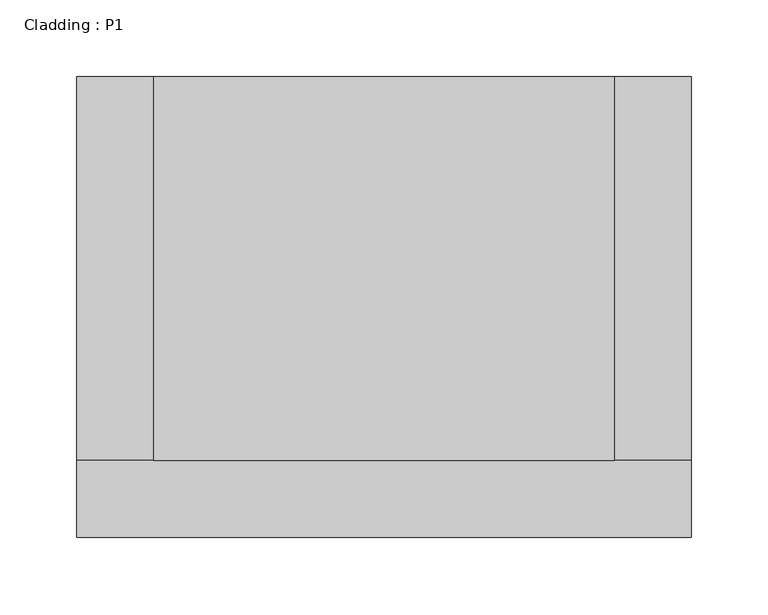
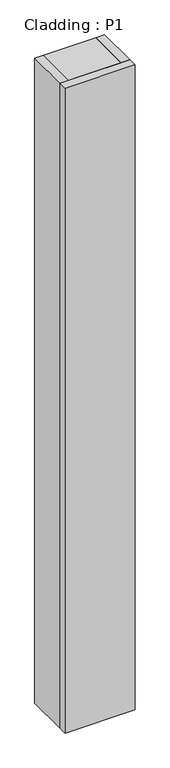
"""IFC4 building model written with IfcOpenShell, lengths in millimetres: column geometry, Cladding : P1."""

import ifcopenshell
import ifcopenshell.guid

model = None  # the IFC model being written
_history = None  # IfcOwnerHistory: only IFC2X3 demands one
_inside = {}  # id of a spatial element -> (the spatial element, [elements in it])
_under = {}  # id of a project, library or spatial element -> (it, [spatial elements below it])
_declared = {}  # id of a project -> (the project, [libraries it declares])
_typed = {}  # id of a type object -> (the type object, [elements of that type])
_made_of = {}  # id of a material, layer set ... -> (it, [elements and type objects made of it])


def new_model(schema):
    """Start an empty IFC model of exactly this schema.

    Asked for "IFC4X3", IfcOpenShell would pick the latest addendum, in which some entities
    have other attributes; the version numbers below select the first issue.
    IFC2X3 requires an IfcOwnerHistory on every rooted entity: one is made here for all.
    """
    global model, _history
    if schema == "IFC4X3":
        model = ifcopenshell.file(schema_version=(4, 3, 0, 0))
    else:
        model = ifcopenshell.file(schema=schema)
    _inside.clear()
    _under.clear()
    _declared.clear()
    _typed.clear()
    _made_of.clear()
    _history = None
    if model.schema == "IFC2X3":
        org = make("IfcOrganization", Name="unknown")
        user = make(
            "IfcPersonAndOrganization",
            ThePerson=make("IfcPerson", FamilyName="unknown"),
            TheOrganization=org,
        )
        app = make(
            "IfcApplication",
            ApplicationDeveloper=org,
            Version="unknown",
            ApplicationFullName="unknown",
            ApplicationIdentifier="unknown",
        )
        _history = make(
            "IfcOwnerHistory",
            OwningUser=user,
            OwningApplication=app,
            ChangeAction="ADDED",
            CreationDate=0,
        )
    return model


def make(cls, **values):
    """One entity of the class cls with the attributes given. An attribute that is None is left unset."""
    return model.create_entity(
        cls, **{name: value for name, value in values.items() if value is not None}
    )


def rooted(cls, **values):
    """An entity with a GlobalId (a new one), such as an element, a storey or a relation."""
    return make(cls, GlobalId=ifcopenshell.guid.new(), OwnerHistory=_history, **values)


def si_unit(unit_type, name, prefix=None):
    """IfcSIUnit, for example si_unit("LENGTHUNIT", "METRE", prefix="MILLI")."""
    return make("IfcSIUnit", UnitType=unit_type, Prefix=prefix, Name=name)


def assignment(units):
    """IfcUnitAssignment: the units of a project."""
    return None if units is None else make("IfcUnitAssignment", Units=units)


def point(xyz):
    """IfcCartesianPoint."""
    return None if xyz is None else make("IfcCartesianPoint", Coordinates=xyz)


def direction(xyz):
    """IfcDirection."""
    return None if xyz is None else make("IfcDirection", DirectionRatios=xyz)


def frame(location, z_axis=None, x_axis=None):
    """IfcAxis2Placement3D, a coordinate frame: its origin and axes. An axis left out is left unset."""
    return make(
        "IfcAxis2Placement3D",
        Location=point(location),
        Axis=direction(z_axis),
        RefDirection=direction(x_axis),
    )


def origin():
    """The frame at (0, 0, 0) with its axes left unset."""
    return frame((0.0, 0.0, 0.0))


def place(relative_to, where):
    """IfcLocalPlacement: puts the frame where relative to a parent placement (None: the world)."""
    return make(
        "IfcLocalPlacement", PlacementRelTo=relative_to, RelativePlacement=where
    )


def context(
    kind, dimensions, precision=None, world=None, true_north=None, identifier=None
):
    """IfcGeometricRepresentationContext, for example the 3D "Model" context."""
    return make(
        "IfcGeometricRepresentationContext",
        ContextIdentifier=identifier,
        ContextType=kind,
        CoordinateSpaceDimension=dimensions,
        Precision=precision,
        WorldCoordinateSystem=world,
        TrueNorth=true_north,
    )


def project(units=None, contexts=None):
    """IfcProject with its units and contexts."""
    return rooted(
        "IfcProject",
        Name="project",
        RepresentationContexts=contexts,
        UnitsInContext=assignment(units),
    )


def spatial(cls, under=None, at=None, **own):
    """A site, building, storey or space (cls), placed at a placement, below another one or the project."""
    s = rooted(cls, ObjectPlacement=at, **own)
    if under is not None:
        _under.setdefault(under.id(), (under, []))[1].append(s)
    return s


def polyline(points):
    """IfcPolyline through the points."""
    return make("IfcPolyline", Points=[point(p) for p in points])


def outline(outer, holes=None, kind="AREA"):
    """IfcArbitraryClosedProfileDef: a profile drawn as a closed curve; with holes, ...WithVoids."""
    if holes is None:
        return make("IfcArbitraryClosedProfileDef", ProfileType=kind, OuterCurve=outer)
    return make(
        "IfcArbitraryProfileDefWithVoids",
        ProfileType=kind,
        OuterCurve=outer,
        InnerCurves=holes,
    )


def extrude(swept, where, along, depth):
    """IfcExtrudedAreaSolid: the profile swept, set in the frame where, extruded along a direction by depth."""
    return make(
        "IfcExtrudedAreaSolid",
        SweptArea=swept,
        Position=where,
        ExtrudedDirection=direction(along),
        Depth=depth,
    )


def shape(context_of_items, identifier, shape_type, items):
    """IfcShapeRepresentation: the items that make up one representation, for example the "Body"."""
    return make(
        "IfcShapeRepresentation",
        ContextOfItems=context_of_items,
        RepresentationIdentifier=identifier,
        RepresentationType=shape_type,
        Items=items,
    )


def source(mapping_origin, context_of_items, identifier, shape_type, items):
    """IfcRepresentationMap: a shape defined once, which mapped items show again and again."""
    return make(
        "IfcRepresentationMap",
        MappingOrigin=mapping_origin,
        MappedRepresentation=shape(context_of_items, identifier, shape_type, items),
    )


def transform(
    local_origin,
    x_axis=None,
    y_axis=None,
    z_axis=None,
    scale=None,
    scale2=None,
    scale3=None,
    uniform=True,
):
    """IfcCartesianTransformationOperator3D, or its non-uniform kind. x_axis, y_axis, z_axis: its Axis1, 2, 3."""
    if uniform:
        return make(
            "IfcCartesianTransformationOperator3D",
            Axis1=direction(x_axis),
            Axis2=direction(y_axis),
            LocalOrigin=point(local_origin),
            Scale=scale,
            Axis3=direction(z_axis),
        )
    return make(
        "IfcCartesianTransformationOperator3DnonUniform",
        Axis1=direction(x_axis),
        Axis2=direction(y_axis),
        LocalOrigin=point(local_origin),
        Scale=scale,
        Axis3=direction(z_axis),
        Scale2=scale2,
        Scale3=scale3,
    )


def mapped(mapping_source, mapping_target):
    """IfcMappedItem: shows the shape of a source again, moved by a transform."""
    return make(
        "IfcMappedItem", MappingSource=mapping_source, MappingTarget=mapping_target
    )


def made_of(thing, what):
    """Note that an element or type object is made of a material, layer set ...; save() writes the relation."""
    if what is not None:
        _made_of.setdefault(what.id(), (what, []))[1].append(thing)
    return thing


def element(
    cls,
    number,
    at=None,
    inside=None,
    cuts=None,
    type_object=None,
    material=None,
    context=None,
    identifier="Body",
    shape_type=None,
    held_by="IfcProductDefinitionShape",
    body=None,
    shapes=None,
    **own,
):
    """One element of the class cls, such as IfcWall. Its Tag is "e" and its number.

    at: its placement. inside: the storey or other place that contains it. cuts: it is an
    opening in that element (IfcRelVoidsElement). A single representation is given by context,
    identifier, shape_type and body (its items); several are given by shapes. held_by: the class
    of the entity that holds the representations. save() writes the other relations.
    """
    e = rooted(cls, Tag="e%d" % number, ObjectPlacement=at, **own)
    if body is not None:
        shapes = [shape(context, identifier, shape_type, body)]
    if shapes is not None:
        e.Representation = make(held_by, Representations=shapes)
    if inside is not None:
        _inside.setdefault(inside.id(), (inside, []))[1].append(e)
    if cuts is not None:
        rooted(
            "IfcRelVoidsElement", RelatingBuildingElement=cuts, RelatedOpeningElement=e
        )
    if type_object is not None:
        _typed.setdefault(type_object.id(), (type_object, []))[1].append(e)
    return made_of(e, material)


def aggregate(whole, parts):
    """IfcRelAggregates: a whole, such as a stair, and the parts it consists of."""
    return rooted("IfcRelAggregates", RelatingObject=whole, RelatedObjects=parts)


def save(model, path):
    """Write the relations noted so far, then the file.

    IfcRelAggregates (storeys below a building ...), IfcRelContainedInSpatialStructure (elements
    in a storey), IfcRelDefinesByType, IfcRelAssociatesMaterial and IfcRelDeclares: one each for
    every whole, place, type object, material and project.
    """
    for whole, parts in _under.values():
        aggregate(whole, parts)
    for where, things in _inside.values():
        rooted(
            "IfcRelContainedInSpatialStructure",
            RelatedElements=things,
            RelatingStructure=where,
        )
    for kind, things in _typed.values():
        rooted("IfcRelDefinesByType", RelatedObjects=things, RelatingType=kind)
    for what, things in _made_of.values():
        rooted("IfcRelAssociatesMaterial", RelatedObjects=things, RelatingMaterial=what)
    for by, libraries in _declared.values():
        rooted("IfcRelDeclares", RelatingContext=by, RelatedDefinitions=libraries)
    model.write(path)


def cladding_p1_bfb143ae(model_context):
    return source(origin(), model_context, "Body", "SweptSolid", [
        extrude(outline(polyline([(150.0, 150.0), (150.0, -100.0), (-150.0, -100.0), (-150.0, 150.0), (150.0, 150.0)])), frame((0.0, 0.0, 7800.0), z_axis=(0.0, 0.0, 1.0), x_axis=(1.0, 0.0, 0.0)), (0.0, 0.0, 1.0), 3900.0),
        extrude(outline(polyline([(200.0, -100.0), (200.0, -150.0), (-200.0, -150.0), (-200.0, -100.0), (200.0, -100.0)])), frame((0.0, 0.0, 7800.0), z_axis=(0.0, 0.0, 1.0), x_axis=(1.0, 0.0, 0.0)), (0.0, 0.0, 1.0), 3900.0),
        extrude(outline(polyline([(-150.0, 150.0), (-150.0, -100.0), (-200.0, -100.0), (-200.0, 150.0), (-150.0, 150.0)])), frame((0.0, 0.0, 7800.0), z_axis=(0.0, 0.0, 1.0), x_axis=(1.0, 0.0, 0.0)), (0.0, 0.0, 1.0), 3900.0),
        extrude(outline(polyline([(150.0, 150.0), (200.0, 150.0), (200.0, -100.0), (150.0, -100.0), (150.0, 150.0)])), frame((0.0, 0.0, 7800.0), z_axis=(0.0, 0.0, 1.0), x_axis=(1.0, 0.0, 0.0)), (0.0, 0.0, 1.0), 3900.0),
    ])


if __name__ == "__main__":
    model = new_model("IFC4")
    model_context = context("Model", 3, world=origin())
    ifc_project = project(units=[si_unit("LENGTHUNIT", "METRE", prefix="MILLI")], contexts=[model_context])
    site = spatial("IfcSite", under=ifc_project)
    building = spatial("IfcBuilding", under=site)
    placement = place(None, origin())
    cladding_p1_shape = cladding_p1_bfb143ae(model_context)
    element("IfcColumn", 1, ObjectType="Cladding : P1", at=placement, inside=building, context=model_context, shape_type="MappedRepresentation", body=[
        mapped(cladding_p1_shape, transform((0.0, 0.0, 0.0), x_axis=(1.0, 0.0, 0.0), y_axis=(0.0, 1.0, 0.0), z_axis=(0.0, 0.0, 1.0))),
    ])
    save(model, "model.ifc")
